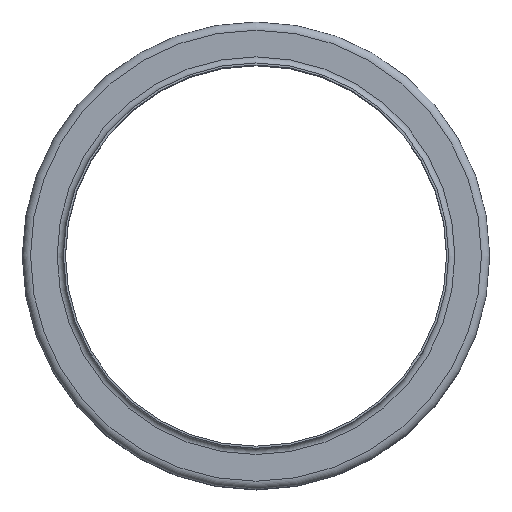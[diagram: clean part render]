
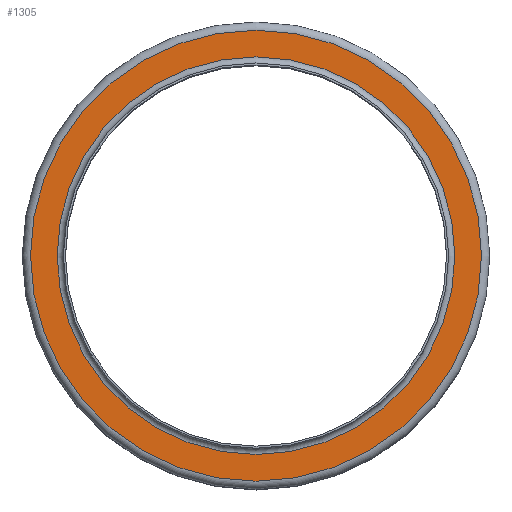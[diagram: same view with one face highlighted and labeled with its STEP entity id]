
A CAD part, top view. The second image highlights one B-rep face of the part: STEP entity #1305.
In plain terms, the highlighted planar face has unit normal (0, 0, 1).
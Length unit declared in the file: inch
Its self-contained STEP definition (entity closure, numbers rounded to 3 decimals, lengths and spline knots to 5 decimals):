
#130=FACE_BOUND('',#384,.T.);
#229=FACE_OUTER_BOUND('',#383,.T.);
#383=EDGE_LOOP('',(#1108));
#384=EDGE_LOOP('',(#1109));
#545=CIRCLE('',#1574,3.4555);
#546=CIRCLE('',#1576,3.9195);
#658=VERTEX_POINT('',#2470);
#659=VERTEX_POINT('',#2474);
#811=EDGE_CURVE('',#658,#658,#545,.T.);
#812=EDGE_CURVE('',#659,#659,#546,.T.);
#1108=ORIENTED_EDGE('',*,*,#812,.F.);
#1109=ORIENTED_EDGE('',*,*,#811,.T.);
#1206=PLANE('',#1575);
#1305=ADVANCED_FACE('',(#229,#130),#1206,.T.);
#1574=AXIS2_PLACEMENT_3D('',#2472,#2070,#2071);
#1575=AXIS2_PLACEMENT_3D('',#2473,#2072,#2073);
#1576=AXIS2_PLACEMENT_3D('',#2475,#2074,#2075);
#2070=DIRECTION('center_axis',(0.,0.,-1.));
#2071=DIRECTION('ref_axis',(1.,0.,0.));
#2072=DIRECTION('center_axis',(0.,0.,1.));
#2073=DIRECTION('ref_axis',(1.,0.,0.));
#2074=DIRECTION('center_axis',(0.,0.,-1.));
#2075=DIRECTION('ref_axis',(1.,0.,0.));
#2470=CARTESIAN_POINT('',(3.4555,0.,-0.107));
#2472=CARTESIAN_POINT('Origin',(0.,0.,-0.107));
#2473=CARTESIAN_POINT('Origin',(0.,3.9195,-0.107));
#2474=CARTESIAN_POINT('',(3.9195,0.,-0.107));
#2475=CARTESIAN_POINT('Origin',(0.,0.,-0.107));
